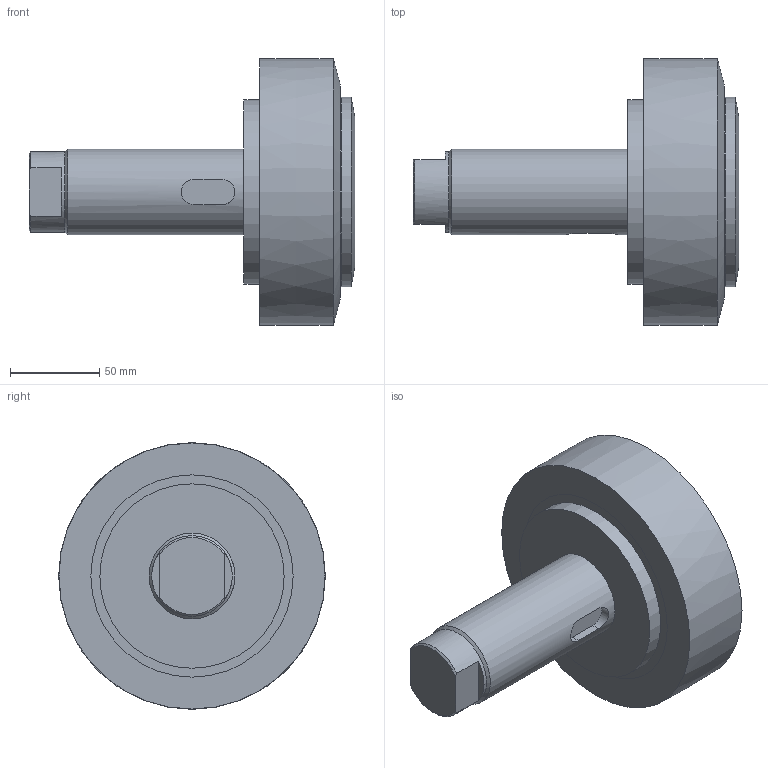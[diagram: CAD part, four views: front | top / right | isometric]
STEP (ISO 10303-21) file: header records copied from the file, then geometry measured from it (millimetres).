
FILE_DESCRIPTION(/* description */ ('-','CAx-IF Rec.Pracs.---Representation and Presentation of Product Manufacturing Information (PMI)---4.0---2014-10-13'),/* implementation_level */ '2;1');
FILE_NAME(/* name */ 'c:\temp\d04e66de-dfe9-4e3d-9afd-3a95f6f13b1d\66273b9f-f117-4c03-a763-c9c0763069ba.stp',/* time_stamp */ '2020-05-28T13:29:04+02:00',/* author */ ('-'),/* organization */ ('NTI CADcenter A/S'),/* preprocessor_version */ 'ST-DEVELOPER v18',/* originating_system */ 'Autodesk Inventor 2020',/* authorisation */ '-');
FILE_SCHEMA (('AP242_MANAGED_MODEL_BASED_3D_ENGINEERING_MIM_LF { 1 0 10303 442 1 1 4 }'));
Length unit declared in the file: millimetre
Products named in the file (1): TR 150.1360_Kontur
Bounding box: 182 x 149 x 148.99 mm (x, y, z)
Volume: 1954316.1 mm3; surface area: 223137.9 mm2
Topology: 7 solids, 7 shells, 50 faces, 105 edges, 76 vertices
Faces by surface type: plane 27, cylinder 15, cone 7, bspline 1
Full cylindrical faces by diameter (mm): 45 x1, 48 x1, 72 x1, 90 x1, 100.3 x1, 101.2 x1, 101.4 x1, 103 x1, 106 x1, 109 x2, 113 x2
Entity records: 1588 total; most frequent: CARTESIAN_POINT 330, DIRECTION 264, ORIENTED_EDGE 210, AXIS2_PLACEMENT_3D 115, EDGE_CURVE 105, VERTEX_POINT 76, CIRCLE 65, EDGE_LOOP 57
